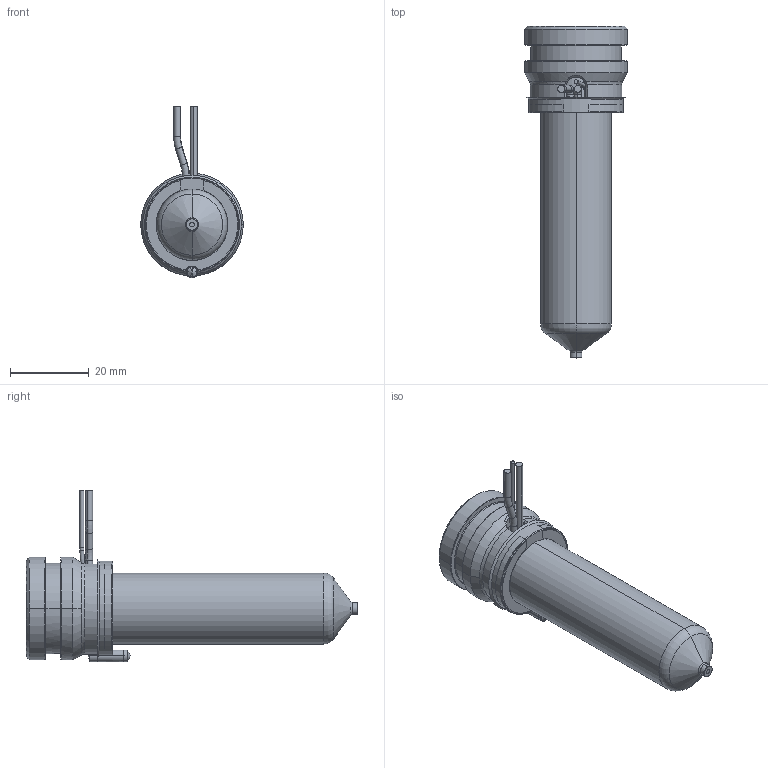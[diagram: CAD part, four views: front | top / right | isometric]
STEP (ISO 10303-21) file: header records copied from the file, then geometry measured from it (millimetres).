
FILE_DESCRIPTION((''),'2;1');
FILE_NAME('MPN-08-24-VP3-066-A','2026-02-05T12:01:19',('UPTIO'),('Thermoplay S.p.A.'),'CREO PARAMETRIC BY PTC INC, 2023494','CREO PARAMETRIC BY PTC INC, 2023494','');
FILE_SCHEMA(('CONFIG_CONTROL_DESIGN','SHAPE_APPEARANCE_LAYERS_GROUPS'));
Length unit declared in the file: millimetre
Products named in the file (1): MPN-08-24-VP3-066-A
Bounding box: 26 x 84.1 x 43.5 mm (x, y, z)
Volume: 17597.8 mm3; surface area: 21507 mm2
Topology: 2 solids, 3 shells, 587 faces, 1560 edges, 971 vertices
Faces by surface type: cylinder 184, plane 143, bspline 108, torus 70, cone 68, sphere 8, extrusion 6
Entity records: 32128 total; most frequent: CARTESIAN_POINT 14894, ORIENTED_EDGE 3104, DIRECTION 2714, EDGE_CURVE 1552, AXIS2_PLACEMENT_3D 1061, VERTEX_POINT 971, EDGE_LOOP 615, VECTOR 592
